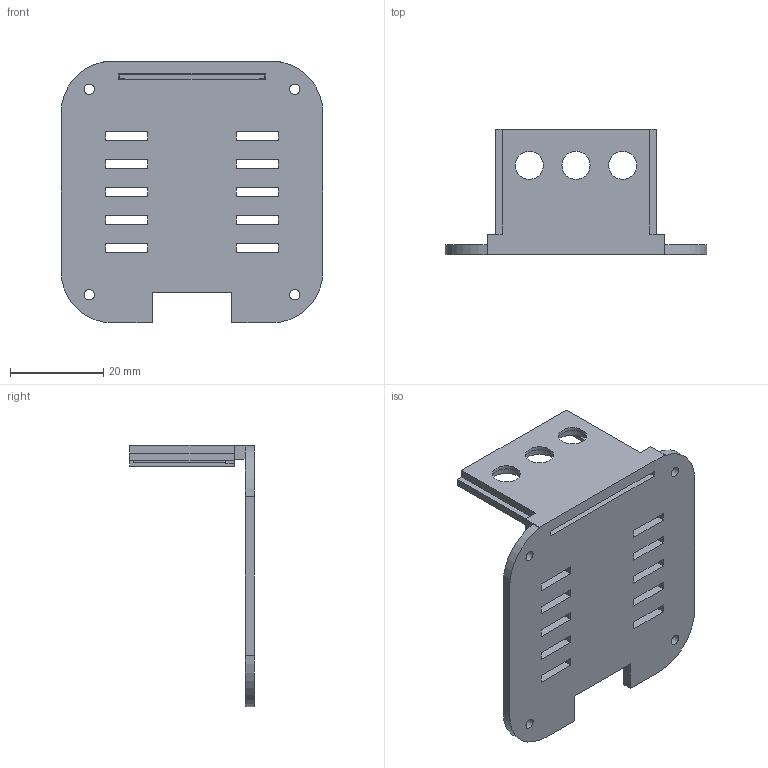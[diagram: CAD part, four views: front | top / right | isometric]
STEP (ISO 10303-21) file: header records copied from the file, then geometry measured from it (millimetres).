
FILE_DESCRIPTION(('Open CASCADE Model'),'2;1');
FILE_NAME('Open CASCADE Shape Model','2026-09-28T23:13:58',('Author'),( 'Open CASCADE'),'Open CASCADE STEP processor 7.8','Open CASCADE 7.8' ,'Unknown');
FILE_SCHEMA(('AUTOMOTIVE_DESIGN { 1 0 10303 214 1 1 1 1 }'));
Length unit declared in the file: millimetre
Products named in the file (1): Open CASCADE STEP translator 7.8 2
Bounding box: 56 x 26.7 x 56 mm (x, y, z)
Volume: 7427.4 mm3; surface area: 8718.7 mm2
Topology: 1 solids, 1 shells, 108 faces, 310 edges, 206 vertices
Faces by surface type: plane 94, cylinder 14
Full cylindrical faces by diameter (mm): 2.2 x4, 6 x3, 8.2 x3
Entity records: 7424 total; most frequent: CARTESIAN_POINT 1563, DIRECTION 938, LINE 652, VECTOR 652, ORIENTED_EDGE 620, PCURVE 620, DEFINITIONAL_REPRESENTATION 620, EDGE_CURVE 310
